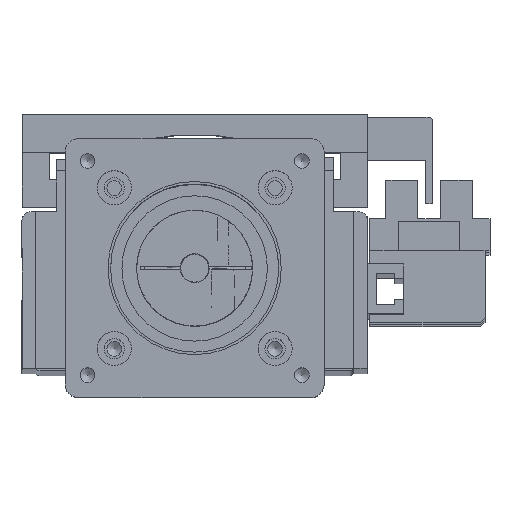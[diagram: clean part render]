
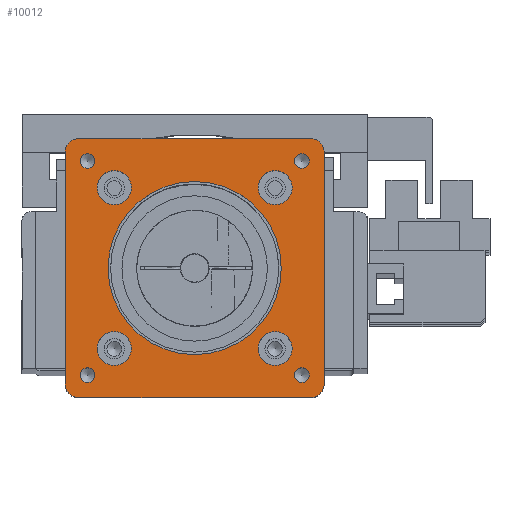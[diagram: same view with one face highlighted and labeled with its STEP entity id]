
A CAD part, top view. The second image highlights one B-rep face of the part: STEP entity #10012.
In plain terms, the highlighted planar face has unit normal (0, 0, 1).
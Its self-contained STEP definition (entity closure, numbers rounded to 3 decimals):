
#9652=CARTESIAN_POINT('',(53.691,4.93,0.0));
#9653=VERTEX_POINT('',#9652);
#9654=CARTESIAN_POINT('',(52.07,4.93,0.0));
#9655=DIRECTION('',(0.0,0.0,-1.0));
#9656=DIRECTION('',(1.0,0.0,0.0));
#9657=AXIS2_PLACEMENT_3D('',#9654,#9655,#9656);
#9658=CIRCLE('',#9657,1.621);
#9659=EDGE_CURVE('',#9653,#9653,#9658,.T.);
#9689=CARTESIAN_POINT('',(6.551,52.07,0.0));
#9690=VERTEX_POINT('',#9689);
#9691=CARTESIAN_POINT('',(4.93,52.07,0.0));
#9692=DIRECTION('',(0.0,0.0,-1.0));
#9693=DIRECTION('',(1.0,0.0,0.0));
#9694=AXIS2_PLACEMENT_3D('',#9691,#9692,#9693);
#9695=CIRCLE('',#9694,1.621);
#9696=EDGE_CURVE('',#9690,#9690,#9695,.T.);
#9726=CARTESIAN_POINT('',(53.691,52.07,0.0));
#9727=VERTEX_POINT('',#9726);
#9728=CARTESIAN_POINT('',(52.07,52.07,0.0));
#9729=DIRECTION('',(0.0,0.0,-1.0));
#9730=DIRECTION('',(1.0,0.0,0.0));
#9731=AXIS2_PLACEMENT_3D('',#9728,#9729,#9730);
#9732=CIRCLE('',#9731,1.621);
#9733=EDGE_CURVE('',#9727,#9727,#9732,.T.);
#9763=CARTESIAN_POINT('',(6.551,4.93,0.0));
#9764=VERTEX_POINT('',#9763);
#9765=CARTESIAN_POINT('',(4.93,4.93,0.0));
#9766=DIRECTION('',(0.0,0.0,-1.0));
#9767=DIRECTION('',(1.0,0.0,0.0));
#9768=AXIS2_PLACEMENT_3D('',#9765,#9766,#9767);
#9769=CIRCLE('',#9768,1.621);
#9770=EDGE_CURVE('',#9764,#9764,#9769,.T.);
#9794=CARTESIAN_POINT('',(0.0,54.0,0.0));
#9795=VERTEX_POINT('',#9794);
#9802=CARTESIAN_POINT('',(3.,57.0,0.0));
#9803=VERTEX_POINT('',#9802);
#9804=CARTESIAN_POINT('',(3.,54.0,0.0));
#9805=DIRECTION('',(0.0,0.0,-1.));
#9806=DIRECTION('',(-0.707,0.707,0.0));
#9807=AXIS2_PLACEMENT_3D('',#9804,#9805,#9806);
#9808=CIRCLE('',#9807,3.);
#9809=EDGE_CURVE('',#9795,#9803,#9808,.T.);
#9826=CARTESIAN_POINT('',(54.,57.,0.0));
#9827=VERTEX_POINT('',#9826);
#9828=CARTESIAN_POINT('',(54.,57.,0.0));
#9829=DIRECTION('',(-1.0,0.0,0.0));
#9830=VECTOR('',#9829,51.);
#9831=LINE('',#9828,#9830);
#9832=EDGE_CURVE('',#9827,#9803,#9831,.T.);
#9887=CARTESIAN_POINT('',(28.5,28.5,0.0));
#9888=DIRECTION('',(0.0,0.0,1.0));
#9889=DIRECTION('',(1.0,0.0,0.0));
#9890=AXIS2_PLACEMENT_3D('',#9887,#9888,#9889);
#9891=PLANE('',#9890);
#9892=ORIENTED_EDGE('',*,*,#9809,.F.);
#9893=CARTESIAN_POINT('',(0.0,3.,0.0));
#9894=VERTEX_POINT('',#9893);
#9895=CARTESIAN_POINT('',(0.0,54.0,0.0));
#9896=DIRECTION('',(0.0,-1.0,0.0));
#9897=VECTOR('',#9896,51.0);
#9898=LINE('',#9895,#9897);
#9899=EDGE_CURVE('',#9795,#9894,#9898,.T.);
#9900=ORIENTED_EDGE('',*,*,#9899,.T.);
#9901=CARTESIAN_POINT('',(3.,0.0,0.0));
#9902=VERTEX_POINT('',#9901);
#9903=CARTESIAN_POINT('',(3.,3.,0.0));
#9904=DIRECTION('',(0.0,0.0,-1.));
#9905=DIRECTION('',(-0.707,-0.707,0.0));
#9906=AXIS2_PLACEMENT_3D('',#9903,#9904,#9905);
#9907=CIRCLE('',#9906,3.);
#9908=EDGE_CURVE('',#9902,#9894,#9907,.T.);
#9909=ORIENTED_EDGE('',*,*,#9908,.F.);
#9910=CARTESIAN_POINT('',(54.0,0.0,0.0));
#9911=VERTEX_POINT('',#9910);
#9912=CARTESIAN_POINT('',(3.,0.0,0.0));
#9913=DIRECTION('',(1.0,0.0,0.0));
#9914=VECTOR('',#9913,51.0);
#9915=LINE('',#9912,#9914);
#9916=EDGE_CURVE('',#9902,#9911,#9915,.T.);
#9917=ORIENTED_EDGE('',*,*,#9916,.T.);
#9918=CARTESIAN_POINT('',(57.0,3.,0.0));
#9919=VERTEX_POINT('',#9918);
#9920=CARTESIAN_POINT('',(54.0,3.,0.0));
#9921=DIRECTION('',(0.0,0.0,-1.));
#9922=DIRECTION('',(0.707,-0.707,0.0));
#9923=AXIS2_PLACEMENT_3D('',#9920,#9921,#9922);
#9924=CIRCLE('',#9923,3.);
#9925=EDGE_CURVE('',#9919,#9911,#9924,.T.);
#9926=ORIENTED_EDGE('',*,*,#9925,.F.);
#9927=CARTESIAN_POINT('',(57.,54.,0.0));
#9928=VERTEX_POINT('',#9927);
#9929=CARTESIAN_POINT('',(57.0,3.,0.0));
#9930=DIRECTION('',(0.0,1.0,0.0));
#9931=VECTOR('',#9930,51.);
#9932=LINE('',#9929,#9931);
#9933=EDGE_CURVE('',#9919,#9928,#9932,.T.);
#9934=ORIENTED_EDGE('',*,*,#9933,.T.);
#9935=CARTESIAN_POINT('',(54.,54.,0.0));
#9936=DIRECTION('',(0.0,0.0,-1.));
#9937=DIRECTION('',(0.707,0.707,0.0));
#9938=AXIS2_PLACEMENT_3D('',#9935,#9936,#9937);
#9939=CIRCLE('',#9938,3.);
#9940=EDGE_CURVE('',#9827,#9928,#9939,.T.);
#9941=ORIENTED_EDGE('',*,*,#9940,.F.);
#9942=ORIENTED_EDGE('',*,*,#9832,.T.);
#9943=EDGE_LOOP('',(#9892,#9900,#9909,#9917,#9926,#9934,#9941,#9942));
#9944=FACE_OUTER_BOUND('',#9943,.T.);
#9945=ORIENTED_EDGE('',*,*,#9659,.T.);
#9946=EDGE_LOOP('',(#9945));
#9947=FACE_BOUND('',#9946,.T.);
#9948=ORIENTED_EDGE('',*,*,#9696,.T.);
#9949=EDGE_LOOP('',(#9948));
#9950=FACE_BOUND('',#9949,.T.);
#9951=ORIENTED_EDGE('',*,*,#9733,.T.);
#9952=EDGE_LOOP('',(#9951));
#9953=FACE_BOUND('',#9952,.T.);
#9954=ORIENTED_EDGE('',*,*,#9770,.T.);
#9955=EDGE_LOOP('',(#9954));
#9956=FACE_BOUND('',#9955,.T.);
#9957=CARTESIAN_POINT('',(49.95,10.8,0.0));
#9958=VERTEX_POINT('',#9957);
#9959=CARTESIAN_POINT('',(46.2,10.8,0.0));
#9960=DIRECTION('',(0.0,0.0,-1.0));
#9961=DIRECTION('',(1.0,0.0,0.0));
#9962=AXIS2_PLACEMENT_3D('',#9959,#9960,#9961);
#9963=CIRCLE('',#9962,3.75);
#9964=EDGE_CURVE('',#9958,#9958,#9963,.T.);
#9965=ORIENTED_EDGE('',*,*,#9964,.T.);
#9966=EDGE_LOOP('',(#9965));
#9967=FACE_BOUND('',#9966,.T.);
#9968=CARTESIAN_POINT('',(14.55,46.2,0.0));
#9969=VERTEX_POINT('',#9968);
#9970=CARTESIAN_POINT('',(10.8,46.2,0.0));
#9971=DIRECTION('',(0.0,0.0,-1.0));
#9972=DIRECTION('',(1.0,0.0,0.0));
#9973=AXIS2_PLACEMENT_3D('',#9970,#9971,#9972);
#9974=CIRCLE('',#9973,3.75);
#9975=EDGE_CURVE('',#9969,#9969,#9974,.T.);
#9976=ORIENTED_EDGE('',*,*,#9975,.T.);
#9977=EDGE_LOOP('',(#9976));
#9978=FACE_BOUND('',#9977,.T.);
#9979=CARTESIAN_POINT('',(14.55,10.8,0.0));
#9980=VERTEX_POINT('',#9979);
#9981=CARTESIAN_POINT('',(10.8,10.8,0.0));
#9982=DIRECTION('',(0.0,0.0,-1.0));
#9983=DIRECTION('',(1.0,0.0,0.0));
#9984=AXIS2_PLACEMENT_3D('',#9981,#9982,#9983);
#9985=CIRCLE('',#9984,3.75);
#9986=EDGE_CURVE('',#9980,#9980,#9985,.T.);
#9987=ORIENTED_EDGE('',*,*,#9986,.T.);
#9988=EDGE_LOOP('',(#9987));
#9989=FACE_BOUND('',#9988,.T.);
#9990=CARTESIAN_POINT('',(49.95,46.2,0.0));
#9991=VERTEX_POINT('',#9990);
#9992=CARTESIAN_POINT('',(46.2,46.2,0.0));
#9993=DIRECTION('',(0.0,0.0,-1.0));
#9994=DIRECTION('',(1.0,0.0,0.0));
#9995=AXIS2_PLACEMENT_3D('',#9992,#9993,#9994);
#9996=CIRCLE('',#9995,3.75);
#9997=EDGE_CURVE('',#9991,#9991,#9996,.T.);
#9998=ORIENTED_EDGE('',*,*,#9997,.T.);
#9999=EDGE_LOOP('',(#9998));
#10000=FACE_BOUND('',#9999,.T.);
#10001=CARTESIAN_POINT('',(47.55,28.5,0.0));
#10002=VERTEX_POINT('',#10001);
#10003=CARTESIAN_POINT('',(28.5,28.5,0.0));
#10004=DIRECTION('',(0.0,0.0,-1.0));
#10005=DIRECTION('',(-1.0,0.0,0.0));
#10006=AXIS2_PLACEMENT_3D('',#10003,#10004,#10005);
#10007=CIRCLE('',#10006,19.05);
#10008=EDGE_CURVE('',#10002,#10002,#10007,.T.);
#10009=ORIENTED_EDGE('',*,*,#10008,.T.);
#10010=EDGE_LOOP('',(#10009));
#10011=FACE_BOUND('',#10010,.T.);
#10012=ADVANCED_FACE('',(#9944,#9947,#9950,#9953,#9956,#9967,#9978,#9989,#10000,#10011),#9891,.T.);
